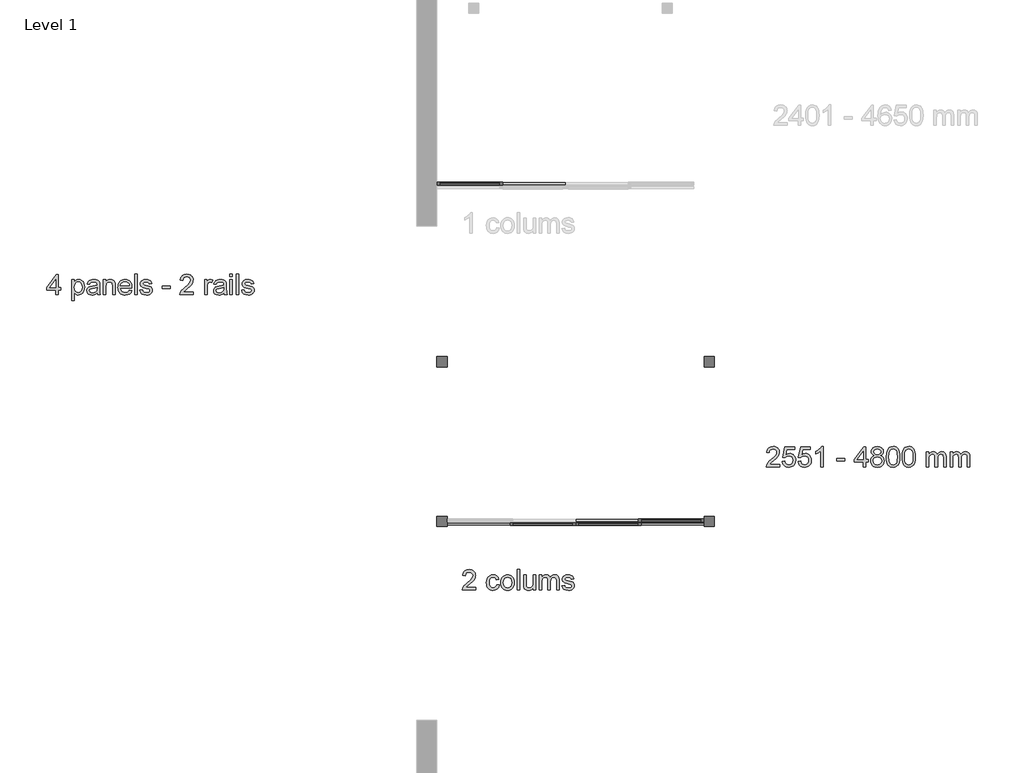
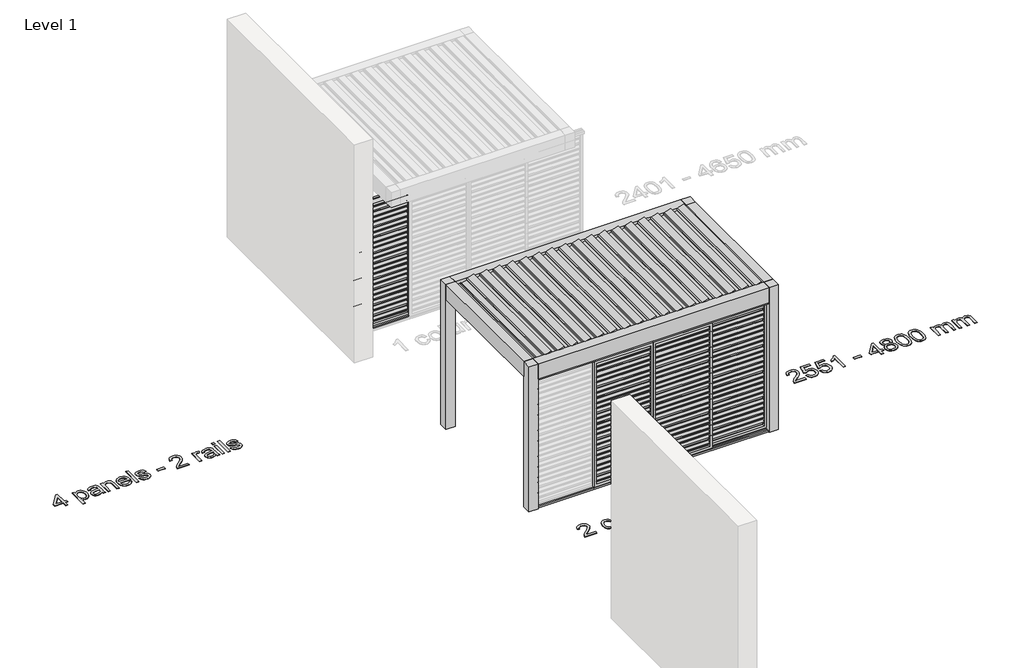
# One storey, part 33 of 69: 8 proxies.
"""IFC4 building model written with IfcOpenShell, lengths in millimetres."""

from ifc_helpers import new_model, si_unit, origin, origin_with_axes, place, context, project, spatial, polyline, outline, extrude, transform, mapped, element, save
from components import generic_models_e57e72d8, generic_models_f57387b0, generic_models_8f5adf67, generic_models_a1f2db59, generic_models_edea96c8

model = new_model("IFC4")

# Units and contexts
model_context = context("Model", 3, world=origin())
ifc_project = project(units=[si_unit("LENGTHUNIT", "METRE", prefix="MILLI")], contexts=[model_context])

# Site, building, storey
site = spatial("IfcSite", under=ifc_project)
building = spatial("IfcBuilding", under=site)
storey = spatial("IfcBuildingStorey", under=building, Name="Level 1", Elevation=0.0)

# Proxies
placement = place(None, origin())
generic_models_shape = generic_models_e57e72d8(model_context)
element("IfcBuildingElementProxy", 1, Name="Renson_Camargue_Loggia_Paro_Aluminium : Renson_Camargue_Loggia_Paro_Aluminium", ObjectType="Renson_Camargue_Loggia_Paro_Aluminium : Renson_Camargue_Loggia_Paro_Aluminium", at=placement, inside=storey, context=model_context, shape_type="MappedRepresentation", body=[
    mapped(generic_models_shape, transform((229731.2027724, -22126.9394184, 0.0), x_axis=(1.0, 0.0, 0.0), y_axis=(0.0, 1.0, 0.0), z_axis=(0.0, 0.0, 1.0))),
])
generic_models_2_shape = generic_models_f57387b0(model_context)
element("IfcBuildingElementProxy", 2, Name="Renson_Camargue_Loggia_Paro_Aluminium : Renson_Camargue_Loggia_Paro_Aluminium", ObjectType="Renson_Camargue_Loggia_Paro_Aluminium : Renson_Camargue_Loggia_Paro_Aluminium", at=placement, inside=storey, context=model_context, shape_type="MappedRepresentation", body=[
    mapped(generic_models_2_shape, transform((230806.2027724, -27140.1963995, 0.0), x_axis=(1.0, 0.0, 0.0), y_axis=(0.0, 1.0, 0.0), z_axis=(0.0, 0.0, 1.0))),
])
generic_models_3_shape = generic_models_8f5adf67(model_context)
element("IfcBuildingElementProxy", 3, Name="Renson_Camargue_Loggia_Paro_Aluminium : Renson_Camargue_Loggia_Paro_Aluminium", ObjectType="Renson_Camargue_Loggia_Paro_Aluminium : Renson_Camargue_Loggia_Paro_Aluminium", at=placement, inside=storey, context=model_context, shape_type="MappedRepresentation", body=[
    mapped(generic_models_3_shape, transform((232696.2027724, -27084.1058954, 0.0), x_axis=(-1.0, 0.0, 0.0), y_axis=(0.0, -1.0, 0.0), z_axis=(0.0, 0.0, 1.0))),
])
generic_models_4_shape = generic_models_a1f2db59(model_context)
element("IfcBuildingElementProxy", 4, Name="Renson_Camargue_Loggia_Paro_Aluminium : Renson_Camargue_Loggia_Paro_Aluminium", ObjectType="Renson_Camargue_Loggia_Paro_Aluminium : Renson_Camargue_Loggia_Paro_Aluminium", at=placement, inside=storey, context=model_context, shape_type="MappedRepresentation", body=[
    mapped(generic_models_4_shape, transform((231771.2027724, -27140.1963995, 0.0), x_axis=(-1.0, 0.0, 0.0), y_axis=(0.0, -1.0, 0.0), z_axis=(0.0, 0.0, 1.0))),
])
generic_models_5_shape = generic_models_edea96c8(model_context)
element("IfcBuildingElementProxy", 5, Name="Renson_Camargue_Freestanding_Patio covers : Renson_Camargue_Freestanding_Patio covers", ObjectType="Renson_Camargue_Freestanding_Patio covers : Renson_Camargue_Freestanding_Patio covers", at=placement, inside=storey, context=model_context, shape_type="MappedRepresentation", body=[
    mapped(generic_models_5_shape, transform((231288.7027724, -25924.1058954, 0.0), x_axis=(1.0, 0.0, 0.0), y_axis=(0.0, 1.0, 0.0), z_axis=(0.0, 0.0, 1.0))),
])
element("IfcBuildingElementProxy", 6, Name="300mm Arial", ObjectType="300mm Arial", at=placement, inside=storey, context=model_context, shape_type="SweptSolid", body=[
    extrude(outline(polyline([(229821.478426, -28073.1029324), (229821.478426, -28110.7740487), (229623.7050654, -28110.7740487), (229627.7517673, -28084.8015798), (229637.0407877, -28064.5036907), (229650.6340274, -28044.8128069), (229670.2973201, -28024.2022182), (229697.7964992, -28001.1452141), (229738.4474597, -27965.0375963), (229762.838036, -27938.3845457), (229775.0333241, -27916.7530844), (229779.0984202, -27895.7102343), (229775.2632504, -27876.847085), (229763.757741, -27861.1661149), (229746.071814, -27850.5987046), (229723.6953917, -27847.0762345), (229700.1969292, -27850.5159312), (229681.9407852, -27860.8350212), (229670.1593643, -27877.224164), (229666.0850712, -27898.8740195), (229628.4139549, -27894.1651299), (229637.5466255, -27857.7264183), (229646.0929841, -27843.190481), (229657.2926916, -27831.1101559), (229670.8882305, -27821.6142019), (229686.6220836, -27814.8313777), (229724.5047321, -27809.4051182), (229744.6945558, -27810.9134344), (229762.663292, -27815.4383829), (229778.4109407, -27822.9799638), (229791.9375018, -27833.5381771), (229802.801517, -27846.3312735), (229810.5615278, -27860.5775038), (229815.2175343, -27876.2768679), (229816.7695365, -27893.4293659), (229815.0956734, -27911.4463866), (229810.0740842, -27929.1507077), (229801.1621428, -27947.1585313), (229787.8172234, -27966.08606), (229766.5444471, -27988.6832115), (229733.8489348, -28017.6999039), (229690.5124357, -28053.9362804), (229673.5162875, -28073.1029324), (229821.478426, -28073.1029324)])), origin_with_axes(), (0.0, 0.0, 1.0), 5.0),
    extrude(outline(polyline([(230127.556246, -28030.7229265), (230165.2273623, -28035.4318161), (230154.7243313, -28068.9366688), (230134.9874623, -28094.2561471), (230107.8745593, -28110.1762404), (230075.2434263, -28115.4829382), (230054.1155034, -28113.6320319), (230035.17188, -28108.0793131), (230018.4125558, -28098.8247816), (230003.837531, -28085.8684376), (229992.0400153, -28069.4540028), (229983.6132183, -28049.8251991), (229978.5571402, -28026.9820265), (229976.8717808, -28000.9244849), (229979.7504574, -27967.4012381), (229988.3864872, -27938.3477575), (230002.917826, -27914.8860833), (230023.4824296, -27898.1382555), (230048.084538, -27888.095077), (230074.7283915, -27884.7473508), (230106.5593811, -27889.3458758), (230132.0076181, -27903.1414506), (230150.2637621, -27925.3983113), (230160.5184728, -27955.3806939), (230122.8473565, -27960.0895835), (230116.0139484, -27943.6544553), (230105.3729617, -27931.8730344), (230091.5130075, -27924.782109), (230075.0226971, -27922.4184671), (230050.6781061, -27927.0721744), (230031.3551043, -27941.0332961), (230018.7459489, -27965.0559904), (230014.5428971, -27999.8944153), (230018.6539784, -28035.2018898), (230030.9872223, -28059.3073576), (230049.9607362, -28073.1857058), (230073.9926275, -28077.8118219), (230093.4995703, -28074.9239482), (230109.49324, -28066.2603273), (230121.1275081, -28051.6002298), (230127.556246, -28030.7229265)])), origin_with_axes(), (0.0, 0.0, 1.0), 5.0),
    extrude(outline(polyline([(230188.77181, -28000.1151445), (230190.8089565, -27971.4525386), (230196.9203962, -27946.7538611), (230207.1061289, -27926.0191122), (230221.3661548, -27909.2482917), (230235.7227496, -27898.5291301), (230251.5692666, -27890.8725861), (230268.9057056, -27886.2786596), (230287.7320667, -27884.7473508), (230308.5151002, -27886.6120527), (230327.3069723, -27892.2061583), (230344.1076832, -27901.5296676), (230358.9172328, -27914.5825806), (230371.0044556, -27930.923439), (230379.6381861, -27950.1107843), (230384.8184245, -27972.1446166), (230386.5451706, -27997.0249358), (230383.49175, -28035.0823282), (230374.3314884, -28064.0530353), (230359.3311, -28085.748876), (230338.7572994, -28101.981669), (230314.3207379, -28112.1076209), (230287.7320667, -28115.4829382), (230266.6455306, -28113.6251341), (230247.6789145, -28108.0517219), (230230.8322184, -28098.7627015), (230216.1054422, -28085.758073), (230204.1469781, -28069.2585655), (230195.6052181, -28049.4849083), (230190.480162, -28026.4371013), (230188.77181, -28000.1151445)]), holes=[polyline([(230226.4429263, -28000.0415681), (230230.8023279, -28034.135032), (230243.8805329, -28058.4244408), (230263.5622196, -28072.9649766), (230287.7320667, -28077.8118219), (230311.7915492, -28072.9373855), (230331.4364477, -28058.3140762), (230344.5146526, -28033.7027707), (230348.8740543, -27998.8643457), (230344.4870615, -27965.7641632), (230331.3260831, -27941.8058483), (230311.6535934, -27927.2653124), (230287.7320667, -27922.4184671), (230263.5622196, -27927.2469183), (230243.8805329, -27941.7322719), (230230.8023279, -27965.9664983), (230226.4429263, -28000.0415681)])]), origin_with_axes(), (0.0, 0.0, 1.0), 5.0),
    extrude(outline(polyline([(230428.9251764, -28110.7740487), (230428.9251764, -27809.4051182), (230466.5962927, -27809.4051182), (230466.5962927, -28110.7740487), (230428.9251764, -28110.7740487)])), origin_with_axes(), (0.0, 0.0, 1.0), 5.0),
    extrude(outline(polyline([(230664.3696534, -28110.7740487), (230664.3696534, -28072.7350504), (230650.7396254, -28091.4372513), (230634.8655173, -28104.7959663), (230616.7473291, -28112.8111952), (230596.3850606, -28115.4829382), (230578.0369461, -28113.60674), (230560.9580245, -28107.9781455), (230546.6290208, -28099.5168596), (230536.53066, -28089.1425874), (230525.3102592, -28061.4042849), (230523.1029672, -28026.381919), (230523.1029672, -27889.4562404), (230560.7740835, -27889.4562404), (230560.7740835, -28008.6500068), (230563.0549519, -28047.0568871), (230568.5455907, -28059.8683776), (230577.9541727, -28069.6080534), (230590.6552986, -28075.7608798), (230606.0235689, -28077.8118219), (230622.2747561, -28075.7148945), (230637.4774795, -28069.4241124), (230650.0130585, -28059.5188897), (230658.2628122, -28046.5786405), (230662.8429431, -28028.8559254), (230664.3696534, -28004.6033049), (230664.3696534, -27889.4562404), (230702.0407697, -27889.4562404), (230702.0407697, -28110.7740487), (230664.3696534, -28110.7740487)])), origin_with_axes(), (0.0, 0.0, 1.0), 5.0),
    extrude(outline(polyline([(230753.8385546, -28110.7740487), (230753.8385546, -27889.4562404), (230791.5096709, -27889.4562404), (230791.5096709, -27925.8765579), (230802.8404363, -27909.1471242), (230817.4085633, -27896.0413281), (230834.7174112, -27887.5708452), (230854.2703393, -27884.7473508), (230875.2212189, -27887.6260275), (230892.015032, -27896.2620573), (230904.559808, -27910.0852233), (230912.7635765, -27928.5253083), (230926.494772, -27909.3724519), (230942.1573479, -27895.6918402), (230959.7513043, -27887.4834732), (230979.2766412, -27884.7473508), (231007.5943578, -27889.2998905), (231028.5360404, -27902.9575096), (231041.4762896, -27926.08809), (231045.789706, -27959.0595139), (231045.789706, -28110.7740487), (231008.1185896, -28110.7740487), (231008.1185896, -27975.2463217), (231004.6237107, -27943.7924111), (230999.7124861, -27935.119593), (230991.9685701, -27928.3045791), (230982.008165, -27923.8899951), (230970.4474733, -27922.4184671), (230950.0392197, -27926.1892576), (230933.4017564, -27937.5016289), (230922.3377054, -27957.1281334), (230918.6496884, -27985.8413231), (230918.6496884, -28110.7740487), (230880.9785721, -28110.7740487), (230880.9785721, -27971.0524669), (230878.7988713, -27949.7520994), (230872.2597688, -27934.558573), (230860.7542594, -27925.4534936), (230843.6753378, -27922.4184671), (230829.1623931, -27924.4418181), (230815.7898826, -27930.511871), (230804.7534227, -27940.4814731), (230797.24863, -27954.2034715), (230792.9444107, -27973.2413648), (230791.5096709, -27999.1586513), (230791.5096709, -28110.7740487), (230753.8385546, -28110.7740487)])), origin_with_axes(), (0.0, 0.0, 1.0), 5.0),
    extrude(outline(polyline([(231088.1697118, -28044.8495951), (231125.8408281, -28040.1407056), (231131.7821223, -28056.253937), (231143.2784347, -28068.0997372), (231160.4033416, -28075.3838007), (231183.2304194, -28077.8118219), (231205.7815857, -28075.5861358), (231221.6372996, -28068.9090776), (231231.0182905, -28059.2337812), (231234.1452875, -28048.0133803), (231230.9998964, -28038.4116602), (231221.5637233, -28031.0908085), (231182.788961, -28020.3486543), (231126.0615573, -28001.9177663), (231111.7049624, -27992.6563371), (231101.303099, -27980.3966696), (231094.9847258, -27965.9205131), (231092.8786013, -27950.0096168), (231094.5708585, -27935.4138986), (231099.64763, -27921.9402206), (231107.6490634, -27910.1220115), (231118.1153062, -27900.4927002), (231142.0644241, -27889.3458758), (231174.4748279, -27884.7473508), (231198.9941628, -27886.5959579), (231220.3129245, -27892.1417789), (231237.4562254, -27900.8421881), (231249.4491785, -27912.1545595), (231257.3954296, -27926.9158245), (231262.3986247, -27945.9629148), (231224.7275084, -27950.6718044), (231219.9726336, -27938.8168071), (231210.5640516, -27929.8864716), (231196.4097918, -27924.2854683), (231177.4178838, -27922.4184671), (231155.7864225, -27924.2026948), (231141.3654483, -27929.5553779), (231133.2536503, -27937.2808997), (231130.5497176, -27946.183644), (231135.037878, -27957.1465275), (231149.0909702, -27965.4606606), (231181.5381622, -27973.4804881), (231236.8308261, -27991.2124002), (231251.4357413, -27999.6920802), (231262.5089893, -28011.2987572), (231269.4895502, -28026.0692193), (231271.8164038, -28044.0402548), (231269.08488, -28062.6182955), (231260.8903085, -28080.0926903), (231247.5453892, -28095.0930786), (231229.3628215, -28106.2491001), (231207.4002664, -28113.1744787), (231182.7153846, -28115.4829382), (231144.7315686, -28111.0315661), (231117.0116602, -28097.6774496), (231098.5071959, -28075.5677417), (231088.1697118, -28044.8495951)])), origin_with_axes(), (0.0, 0.0, 1.0), 5.0),
])
element("IfcBuildingElementProxy", 7, Name="300mm Arial", ObjectType="300mm Arial", at=placement, inside=storey, context=model_context, shape_type="SweptSolid", body=[
    extrude(outline(polyline([(223640.1164378, -23761.4878289), (223640.1164378, -23690.8544858), (223503.5586412, -23690.8544858), (223503.5586412, -23653.1833695), (223649.5342168, -23464.827788), (223677.7875541, -23464.827788), (223677.7875541, -23653.1833695), (223715.4586704, -23653.1833695), (223715.4586704, -23690.8544858), (223677.7875541, -23690.8544858), (223677.7875541, -23761.4878289), (223640.1164378, -23761.4878289)]), holes=[polyline([(223640.1164378, -23653.1833695), (223640.1164378, -23536.7855062), (223549.9117726, -23653.1833695), (223640.1164378, -23653.1833695)])]), origin_with_axes(), (0.0, 0.0, 1.0), 5.0),
    extrude(outline(polyline([(223875.5609147, -23846.2478406), (223875.5609147, -23540.1700206), (223913.232031, -23540.1700206), (223913.232031, -23577.1053729), (223925.5192896, -23558.8860171), (223939.2780762, -23545.8721915), (223955.3177312, -23538.0638962), (223974.447595, -23535.461131), (223999.9234232, -23539.1031628), (224022.198678, -23550.029258), (224040.3352603, -23567.5772292), (224053.3950712, -23591.0848887), (224061.2861399, -23618.8415852), (224063.9164962, -23649.1366675), (224060.9458491, -23681.3539333), (224052.0339078, -23710.1682905), (224037.4657808, -23734.1174084), (224017.5265766, -23751.738956), (223994.3040257, -23762.5822778), (223969.8858582, -23766.1967184), (223952.5678133, -23763.7778943), (223937.1075725, -23756.5214219), (223923.8730177, -23745.5677355), (223913.232031, -23732.0572693), (223913.232031, -23846.2478406), (223875.5609147, -23846.2478406)]), holes=[polyline([(223913.232031, -23652.5947583), (223917.3063241, -23686.3663255), (223929.5292034, -23709.9843495), (223947.5646182, -23723.890289), (223969.0765179, -23728.5256021), (223990.9379054, -23723.7247421), (224009.4331727, -23709.322162), (224022.0423281, -23684.8396152), (224026.2453799, -23649.7988551), (224022.1434957, -23616.211229), (224009.8378429, -23592.2621111), (223991.8300193, -23577.9147133), (223970.6216222, -23573.1322473), (223949.3304518, -23578.2182159), (223930.6328494, -23593.4761217), (223917.5822356, -23618.427718), (223913.232031, -23652.5947583)])]), origin_with_axes(), (0.0, 0.0, 1.0), 5.0),
    extrude(outline(polyline([(224247.5631882, -23733.2344916), (224229.5645616, -23748.6671413), (224211.0325061, -23758.7655021), (224191.5439574, -23764.3389143), (224170.6758512, -23766.1967184), (224139.1943495, -23761.7269522), (224115.9717985, -23748.3176534), (224101.6519919, -23727.955385), (224096.878723, -23702.6267096), (224098.6813448, -23687.0101189), (224104.0892101, -23672.828268), (224112.4309343, -23660.6881622), (224123.0351328, -23651.1968067), (224149.4122719, -23638.8359717), (224182.0066167, -23633.170589), (224220.5238616, -23627.2109006), (224247.342459, -23620.2211427), (224247.5631882, -23611.8334332), (224244.9696201, -23595.0212261), (224237.1889159, -23584.0215544), (224219.7880976, -23575.8545741), (224195.5446741, -23573.1322473), (224173.1038724, -23574.9440662), (224157.4320994, -23580.3795226), (224146.7451274, -23590.4318982), (224139.2587288, -23606.0944741), (224101.5876125, -23601.3855846), (224108.126715, -23580.7841928), (224117.8847849, -23564.5973851), (224131.7723302, -23552.2181559), (224150.6998589, -23543.0395001), (224173.8488334, -23537.3557233), (224200.4007164, -23535.461131), (224225.8673475, -23537.1349941), (224246.054872, -23542.1565833), (224261.2759896, -23549.7073613), (224271.8433999, -23558.9687905), (224278.8515519, -23570.4191176), (224283.3948945, -23584.5365892), (224285.2343045, -23617.498816), (224285.2343045, -23664.3669821), (224287.1472909, -23729.8131891), (224294.6520836, -23761.4878289), (224256.9809673, -23761.4878289), (224247.5631882, -23733.2344916)]), holes=[polyline([(224247.5631882, -23657.892259), (224186.7890826, -23669.4437537), (224154.3786788, -23675.5505948), (224139.7001872, -23685.4834087), (224134.5498393, -23699.9779593), (224137.3549395, -23711.179966), (224145.7702401, -23720.3586218), (224159.6118002, -23726.483857), (224178.6956787, -23728.5256021), (224198.9291884, -23726.2723249), (224216.8082534, -23719.5124932), (224231.302804, -23709.5520882), (224241.3827707, -23697.6970909), (224245.8525369, -23685.4834087), (224247.342459, -23668.5608369), (224247.5631882, -23657.892259)])]), origin_with_axes(), (0.0, 0.0, 1.0), 5.0),
    extrude(outline(polyline([(224337.0320894, -23761.4878289), (224337.0320894, -23540.1700206), (224374.7032057, -23540.1700206), (224374.7032057, -23571.0721082), (224387.7906077, -23555.4923057), (224403.508366, -23544.3638753), (224421.8564805, -23537.6868171), (224442.8349512, -23535.461131), (224461.403795, -23537.2545558), (224478.4091402, -23542.6348299), (224492.5909911, -23550.9305689), (224502.6893519, -23561.4703881), (224513.9833291, -23589.1719023), (224515.9698919, -23625.5922199), (224515.9698919, -23761.4878289), (224478.2987756, -23761.4878289), (224478.2987756, -23630.6689914), (224473.957768, -23597.3388826), (224467.9520945, -23587.4152658), (224458.6170888, -23579.7173351), (224446.6517269, -23574.7785193), (224432.7549846, -23573.1322473), (224410.6912619, -23576.8294614), (224391.8832949, -23587.9211035), (224384.3670059, -23596.9755992), (224378.998228, -23609.3502298), (224374.7032057, -23644.059896), (224374.7032057, -23761.4878289), (224337.0320894, -23761.4878289)])), origin_with_axes(), (0.0, 0.0, 1.0), 5.0),
    extrude(outline(polyline([(224722.7195732, -23695.5633753), (224759.6549255, -23700.2722649), (224746.3467943, -23728.1025378), (224725.1108061, -23748.9062646), (224696.4252076, -23761.874105), (224660.7682452, -23766.1967184), (224637.3939429, -23764.3320165), (224616.5672235, -23758.737911), (224598.2880868, -23749.4144016), (224582.556533, -23736.3614886), (224569.9059909, -23719.9424553), (224560.8698894, -23700.5205852), (224555.4482285, -23678.0958784), (224553.6410082, -23652.6683347), (224555.4666226, -23626.3785676), (224560.9434658, -23603.2066004), (224570.0715378, -23583.1524332), (224582.8508386, -23566.2160658), (224598.5410057, -23552.7607819), (224616.4016766, -23543.1498647), (224636.4328512, -23537.3833145), (224658.6345296, -23535.461131), (224680.1211374, -23537.3787159), (224699.5522045, -23543.1314706), (224716.927731, -23552.7193951), (224732.2477169, -23566.1424894), (224744.7534054, -23583.0420686), (224753.6860401, -23603.0594476), (224759.0456209, -23626.1946266), (224760.8321479, -23652.4476055), (224760.6114187, -23662.6011486), (224591.3121245, -23662.6011486), (224597.8328329, -23690.7993035), (224612.980374, -23711.5294539), (224634.8417616, -23724.2765651), (224661.5040092, -23728.5256021), (224681.5535779, -23726.5574334), (224698.4393615, -23720.6529274), (224712.1613599, -23710.444202), (224722.7195732, -23695.5633753)]), holes=[polyline([(224591.3121245, -23624.9300323), (224723.1610316, -23624.9300323), (224718.0658659, -23605.0276163), (224708.0778698, -23590.7905831), (224686.1153147, -23577.5468313), (224658.4873768, -23573.1322473), (224633.0943221, -23576.6547174), (224612.0974572, -23587.2221278), (224597.5017391, -23603.6940441), (224591.3121245, -23624.9300323)])]), origin_with_axes(), (0.0, 0.0, 1.0), 5.0),
    extrude(outline(polyline([(224798.5032642, -23761.4878289), (224798.5032642, -23460.1188984), (224836.1743805, -23460.1188984), (224836.1743805, -23761.4878289), (224798.5032642, -23761.4878289)])), origin_with_axes(), (0.0, 0.0, 1.0), 5.0),
    extrude(outline(polyline([(224878.5543863, -23695.5633753), (224916.2255026, -23690.8544858), (224922.1667969, -23706.9677172), (224933.6631092, -23718.8135174), (224950.7880161, -23726.0975809), (224973.6150939, -23728.5256021), (224996.1662602, -23726.299916), (225012.0219742, -23719.6228578), (225021.4029651, -23709.9475613), (225024.529962, -23698.7271605), (225021.384571, -23689.1254404), (225011.9483978, -23681.8045887), (224973.1736355, -23671.0624345), (224916.4462318, -23652.6315465), (224902.089637, -23643.3701173), (224891.6877736, -23631.1104498), (224885.3694003, -23616.6342933), (224883.2632759, -23600.723397), (224884.955533, -23586.1276788), (224890.0323046, -23572.6540007), (224898.033738, -23560.8357917), (224908.4999807, -23551.2064804), (224932.4490986, -23540.059656), (224964.8595024, -23535.461131), (224989.3788374, -23537.3097381), (225010.697599, -23542.8555591), (225027.8409, -23551.5559683), (225039.833853, -23562.8683397), (225047.7801041, -23577.6296047), (225052.7832992, -23596.676695), (225015.1121829, -23601.3855846), (225010.3573082, -23589.5305873), (225000.9487261, -23580.6002518), (224986.7944664, -23574.9992485), (224967.8025584, -23573.1322473), (224946.171097, -23574.916475), (224931.7501228, -23580.269158), (224923.6383248, -23587.9946799), (224920.9343922, -23596.8974242), (224925.4225525, -23607.8603077), (224939.4756447, -23616.1744408), (224971.9228367, -23624.1942683), (225027.2155006, -23641.9261804), (225041.8204158, -23650.4058604), (225052.8936638, -23662.0125374), (225059.8742247, -23676.7829995), (225062.2010783, -23694.7540349), (225059.4695545, -23713.3320757), (225051.2749831, -23730.8064705), (225037.9300637, -23745.8068588), (225019.7474961, -23756.9628803), (224997.784941, -23763.8882589), (224973.1000591, -23766.1967184), (224935.1162431, -23761.7453463), (224907.3963348, -23748.3912298), (224888.8918704, -23726.2815219), (224878.5543863, -23695.5633753)])), origin_with_axes(), (0.0, 0.0, 1.0), 5.0),
    extrude(outline(polyline([(225203.4677645, -23672.0189276), (225203.4677645, -23634.3478113), (225321.1900029, -23634.3478113), (225321.1900029, -23672.0189276), (225203.4677645, -23672.0189276)])), origin_with_axes(), (0.0, 0.0, 1.0), 5.0),
    extrude(outline(polyline([(225664.9389392, -23723.8167126), (225664.9389392, -23761.4878289), (225467.1655786, -23761.4878289), (225471.2122806, -23735.51536), (225480.5013009, -23715.2174709), (225494.0945407, -23695.5265871), (225513.7578333, -23674.9159984), (225541.2570124, -23651.8589943), (225581.9079729, -23615.7513765), (225606.2985492, -23589.0983259), (225618.4938373, -23567.4668646), (225622.5589334, -23546.4240145), (225618.7237636, -23527.5608652), (225607.2182542, -23511.8798951), (225589.5323273, -23501.3124848), (225567.1559049, -23497.7900147), (225543.6574425, -23501.2297114), (225525.4012985, -23511.5488013), (225513.6198776, -23527.9379442), (225509.5455845, -23549.5877996), (225471.8744682, -23544.8789101), (225481.0071387, -23508.4401985), (225489.5534973, -23493.9042612), (225500.7532048, -23481.8239361), (225514.3487438, -23472.3279821), (225530.0825968, -23465.5451579), (225567.9652453, -23460.1188984), (225588.155069, -23461.6272146), (225606.1238052, -23466.1521631), (225621.8714539, -23473.693744), (225635.398015, -23484.2519573), (225646.2620302, -23497.0450537), (225654.022041, -23511.291284), (225658.6780475, -23526.9906481), (225660.2300497, -23544.1431461), (225658.5561866, -23562.1601668), (225653.5345974, -23579.8644879), (225644.622656, -23597.8723115), (225631.2777367, -23616.7998402), (225610.0049603, -23639.3969917), (225577.309448, -23668.4136841), (225533.9729489, -23704.6500606), (225516.9768008, -23723.8167126), (225664.9389392, -23723.8167126)])), origin_with_axes(), (0.0, 0.0, 1.0), 5.0),
    extrude(outline(polyline([(225829.7500731, -23761.4878289), (225829.7500731, -23540.1700206), (225862.7122998, -23540.1700206), (225862.7122998, -23572.9115181), (225874.8891939, -23553.9288072), (225886.1095947, -23542.7451945), (225897.3667838, -23537.2821469), (225909.6540424, -23535.461131), (225928.4160242, -23538.3673988), (225947.4723115, -23547.0862021), (225934.8907473, -23580.8577692), (225921.6469955, -23575.0636278), (225908.4032436, -23573.1322473), (225897.1552516, -23574.9900514), (225887.1028761, -23580.5634636), (225878.9818811, -23589.4294197), (225873.5280305, -23601.1648554), (225868.9478996, -23622.2077055), (225867.4211894, -23645.163542), (225867.4211894, -23761.4878289), (225829.7500731, -23761.4878289)])), origin_with_axes(), (0.0, 0.0, 1.0), 5.0),
    extrude(outline(polyline([(226112.2834454, -23733.2344916), (226094.2848187, -23748.6671413), (226075.7527632, -23758.7655021), (226056.2642145, -23764.3389143), (226035.3961084, -23766.1967184), (226003.9146066, -23761.7269522), (225980.6920557, -23748.3176534), (225966.372249, -23727.955385), (225961.5989801, -23702.6267096), (225963.4016019, -23687.0101189), (225968.8094672, -23672.828268), (225977.1511915, -23660.6881622), (225987.75539, -23651.1968067), (226014.132529, -23638.8359717), (226046.7268738, -23633.170589), (226085.2441187, -23627.2109006), (226112.0627162, -23620.2211427), (226112.2834454, -23611.8334332), (226109.6898773, -23595.0212261), (226101.9091731, -23584.0215544), (226084.5083547, -23575.8545741), (226060.2649312, -23573.1322473), (226037.8241295, -23574.9440662), (226022.1523565, -23580.3795226), (226011.4653846, -23590.4318982), (226003.978986, -23606.0944741), (225966.3078697, -23601.3855846), (225972.8469721, -23580.7841928), (225982.6050421, -23564.5973851), (225996.4925874, -23552.2181559), (226015.420116, -23543.0395001), (226038.5690906, -23537.3557233), (226065.1209736, -23535.461131), (226090.5876047, -23537.1349941), (226110.7751292, -23542.1565833), (226125.9962467, -23549.7073613), (226136.563657, -23558.9687905), (226143.571809, -23570.4191176), (226148.1151517, -23584.5365892), (226149.9545617, -23617.498816), (226149.9545617, -23664.3669821), (226151.867548, -23729.8131891), (226159.3723407, -23761.4878289), (226121.7012244, -23761.4878289), (226112.2834454, -23733.2344916)]), holes=[polyline([(226112.2834454, -23657.892259), (226051.5093398, -23669.4437537), (226019.098936, -23675.5505948), (226004.4204444, -23685.4834087), (225999.2700964, -23699.9779593), (226002.0751967, -23711.179966), (226010.4904973, -23720.3586218), (226024.3320574, -23726.483857), (226043.4159359, -23728.5256021), (226063.6494456, -23726.2723249), (226081.5285106, -23719.5124932), (226096.0230612, -23709.5520882), (226106.1030278, -23697.6970909), (226110.5727941, -23685.4834087), (226112.0627162, -23668.5608369), (226112.2834454, -23657.892259)])]), origin_with_axes(), (0.0, 0.0, 1.0), 5.0),
    extrude(outline(polyline([(226201.7523466, -23761.4878289), (226201.7523466, -23540.1700206), (226239.4234629, -23540.1700206), (226239.4234629, -23761.4878289), (226201.7523466, -23761.4878289)])), origin_with_axes(), (0.0, 0.0, 1.0), 5.0),
    extrude(outline(polyline([(226201.7523466, -23497.7900147), (226201.7523466, -23460.1188984), (226239.4234629, -23460.1188984), (226239.4234629, -23497.7900147), (226201.7523466, -23497.7900147)])), origin_with_axes(), (0.0, 0.0, 1.0), 5.0),
    extrude(outline(polyline([(226295.9301374, -23761.4878289), (226295.9301374, -23460.1188984), (226333.6012537, -23460.1188984), (226333.6012537, -23761.4878289), (226295.9301374, -23761.4878289)])), origin_with_axes(), (0.0, 0.0, 1.0), 5.0),
    extrude(outline(polyline([(226375.9812595, -23695.5633753), (226413.6523758, -23690.8544858), (226419.59367, -23706.9677172), (226431.0899824, -23718.8135174), (226448.2148893, -23726.0975809), (226471.0419671, -23728.5256021), (226493.5931334, -23726.299916), (226509.4488474, -23719.6228578), (226518.8298382, -23709.9475613), (226521.9568352, -23698.7271605), (226518.8114441, -23689.1254404), (226509.375271, -23681.8045887), (226470.6005087, -23671.0624345), (226413.873105, -23652.6315465), (226399.5165101, -23643.3701173), (226389.1146467, -23631.1104498), (226382.7962735, -23616.6342933), (226380.690149, -23600.723397), (226382.3824062, -23586.1276788), (226387.4591778, -23572.6540007), (226395.4606111, -23560.8357917), (226405.9268539, -23551.2064804), (226429.8759718, -23540.059656), (226462.2863756, -23535.461131), (226486.8057105, -23537.3097381), (226508.1244722, -23542.8555591), (226525.2677731, -23551.5559683), (226537.2607262, -23562.8683397), (226545.2069773, -23577.6296047), (226550.2101724, -23596.676695), (226512.5390561, -23601.3855846), (226507.7841813, -23589.5305873), (226498.3755993, -23580.6002518), (226484.2213395, -23574.9992485), (226465.2294315, -23573.1322473), (226443.5979702, -23574.916475), (226429.176996, -23580.269158), (226421.065198, -23587.9946799), (226418.3612653, -23596.8974242), (226422.8494257, -23607.8603077), (226436.9025179, -23616.1744408), (226469.3497099, -23624.1942683), (226524.6423738, -23641.9261804), (226539.247289, -23650.4058604), (226550.320537, -23662.0125374), (226557.3010979, -23676.7829995), (226559.6279515, -23694.7540349), (226556.8964277, -23713.3320757), (226548.7018562, -23730.8064705), (226535.3569369, -23745.8068588), (226517.1743692, -23756.9628803), (226495.2118141, -23763.8882589), (226470.5269323, -23766.1967184), (226432.5431163, -23761.7453463), (226404.8232079, -23748.3912298), (226386.3187436, -23726.2815219), (226375.9812595, -23695.5633753)])), origin_with_axes(), (0.0, 0.0, 1.0), 5.0),
])
element("IfcBuildingElementProxy", 8, Name="300mm Arial", ObjectType="300mm Arial", at=placement, inside=storey, context=model_context, shape_type="SweptSolid", body=[
    extrude(outline(polyline([(234292.8681511, -26259.7713516), (234292.8681511, -26297.4424679), (234095.0947904, -26297.4424679), (234099.1414924, -26271.469999), (234108.4305128, -26251.1721099), (234122.0237525, -26231.4812262), (234141.6870451, -26210.8706374), (234169.1862243, -26187.8136333), (234209.8371847, -26151.7060155), (234234.227761, -26125.052965), (234246.4230492, -26103.4215036), (234250.4881452, -26082.3786535), (234246.6529754, -26063.5155042), (234235.147466, -26047.8345342), (234217.4615391, -26037.2671239), (234195.0851167, -26033.7446537), (234171.5866543, -26037.1843504), (234153.3305103, -26047.5034404), (234141.5490894, -26063.8925833), (234137.4747963, -26085.5424387), (234099.80368, -26080.8335491), (234108.9363505, -26044.3948375), (234117.4827091, -26029.8589002), (234128.6824166, -26017.7785752), (234142.2779556, -26008.2826212), (234158.0118087, -26001.4997969), (234195.8944571, -25996.0735374), (234216.0842809, -25997.5818536), (234234.0530171, -26002.1068022), (234249.8006657, -26009.6483831), (234263.3272268, -26020.2065963), (234274.191242, -26032.9996927), (234281.9512528, -26047.245923), (234286.6072593, -26062.9452871), (234288.1592615, -26080.0977851), (234286.4853984, -26098.1148059), (234281.4638092, -26115.8191269), (234272.5518679, -26133.8269505), (234259.2069485, -26152.7544792), (234237.9341721, -26175.3516307), (234205.2386598, -26204.3683231), (234161.9021608, -26240.6046996), (234144.9060126, -26259.7713516), (234292.8681511, -26259.7713516)])), origin_with_axes(), (0.0, 0.0, 1.0), 5.0),
    extrude(outline(polyline([(234330.5392674, -26217.3913457), (234368.2103837, -26212.6824562), (234375.1265652, -26235.2980019), (234387.1930946, -26251.4940067), (234404.3547897, -26261.2336825), (234426.5564681, -26264.4802411), (234453.5590065, -26259.9644896), (234473.7925163, -26246.4172352), (234486.4292628, -26225.4019762), (234490.6415117, -26198.4822112), (234486.6959773, -26173.1351417), (234474.8593741, -26153.7477606), (234455.0397316, -26141.4421078), (234427.1450793, -26137.3402236), (234408.8705412, -26138.9772985), (234394.0724879, -26143.8885231), (234372.9192732, -26160.8846713), (234335.2481569, -26156.1757817), (234368.2103837, -26000.782427), (234514.1859593, -26000.782427), (234514.1859593, -26038.4535433), (234398.6710129, -26038.4535433), (234382.5577815, -26121.4477214), (234409.4683494, -26105.1137608), (234437.6665044, -26099.6691073), (234456.0123196, -26101.3567659), (234472.8636142, -26106.4197419), (234488.2203883, -26114.8580352), (234502.0826417, -26126.6716457), (234513.5582607, -26141.1386052), (234521.7551314, -26157.5369451), (234526.6732538, -26175.8666655), (234528.312628, -26196.1277664), (234522.4081219, -26233.7988827), (234515.0274894, -26250.5926958), (234504.6946039, -26266.0253455), (234489.041225, -26281.8304757), (234470.7758839, -26293.1198544), (234449.8985807, -26299.8934817), (234426.4093153, -26302.1513574), (234389.4095836, -26296.348019), (234373.7309129, -26289.0938459), (234359.9330388, -26278.9380035), (234348.4528213, -26266.3863297), (234339.7271202, -26251.9446621), (234330.5392674, -26217.3913457)])), origin_with_axes(), (0.0, 0.0, 1.0), 5.0),
    extrude(outline(polyline([(234561.2748547, -26217.3913457), (234598.945971, -26212.6824562), (234605.8621525, -26235.2980019), (234617.928682, -26251.4940067), (234635.0903771, -26261.2336825), (234657.2920555, -26264.4802411), (234684.2945939, -26259.9644896), (234704.5281037, -26246.4172352), (234717.1648502, -26225.4019762), (234721.377099, -26198.4822112), (234717.4315646, -26173.1351417), (234705.5949614, -26153.7477606), (234685.7753189, -26141.4421078), (234657.8806667, -26137.3402236), (234639.6061286, -26138.9772985), (234624.8080753, -26143.8885231), (234603.6548606, -26160.8846713), (234565.9837443, -26156.1757817), (234598.945971, -26000.782427), (234744.9215467, -26000.782427), (234744.9215467, -26038.4535433), (234629.4066002, -26038.4535433), (234613.2933688, -26121.4477214), (234640.2039368, -26105.1137608), (234668.4020917, -26099.6691073), (234686.747907, -26101.3567659), (234703.5992016, -26106.4197419), (234718.9559757, -26114.8580352), (234732.8182291, -26126.6716457), (234744.2938481, -26141.1386052), (234752.4907188, -26157.5369451), (234757.4088412, -26175.8666655), (234759.0482153, -26196.1277664), (234753.1437093, -26233.7988827), (234745.7630768, -26250.5926958), (234735.4301912, -26266.0253455), (234719.7768124, -26281.8304757), (234701.5114713, -26293.1198544), (234680.6341681, -26299.8934817), (234657.1449027, -26302.1513574), (234620.145171, -26296.348019), (234604.4665002, -26289.0938459), (234590.6686261, -26278.9380035), (234579.1884086, -26266.3863297), (234570.4627076, -26251.9446621), (234561.2748547, -26217.3913457)])), origin_with_axes(), (0.0, 0.0, 1.0), 5.0),
    extrude(outline(polyline([(234933.2771283, -26297.4424679), (234895.6060119, -26297.4424679), (234895.6060119, -26062.5866022), (234859.9214584, -26088.007248), (234820.2637793, -26107.0267472), (234820.2637793, -26071.4157701), (234849.8506888, -26055.3209328), (234875.4828668, -26036.1726749), (234895.6887854, -26015.8104065), (234908.9969166, -25996.0735374), (234933.2771283, -25996.0735374), (234933.2771283, -26297.4424679)])), origin_with_axes(), (0.0, 0.0, 1.0), 5.0),
    extrude(outline(polyline([(235131.0504889, -26207.9735667), (235131.0504889, -26170.3024504), (235248.7727273, -26170.3024504), (235248.7727273, -26207.9735667), (235131.0504889, -26207.9735667)])), origin_with_axes(), (0.0, 0.0, 1.0), 5.0),
    extrude(outline(polyline([(235521.8883205, -26297.4424679), (235521.8883205, -26226.8091248), (235385.3305239, -26226.8091248), (235385.3305239, -26189.1380085), (235531.3060996, -26000.782427), (235559.5594368, -26000.782427), (235559.5594368, -26189.1380085), (235597.2305531, -26189.1380085), (235597.2305531, -26226.8091248), (235559.5594368, -26226.8091248), (235559.5594368, -26297.4424679), (235521.8883205, -26297.4424679)]), holes=[polyline([(235521.8883205, -26189.1380085), (235521.8883205, -26072.7401452), (235431.6836553, -26189.1380085), (235521.8883205, -26189.1380085)])]), origin_with_axes(), (0.0, 0.0, 1.0), 5.0),
    extrude(outline(polyline([(235685.0807736, -26131.4541117), (235664.9116432, -26121.5212978), (235650.7573834, -26108.0568168), (235642.3972651, -26091.3365801), (235639.610559, -26071.6364993), (235641.1280722, -26056.2728274), (235645.6806119, -26042.1875455), (235653.2681781, -26029.3806536), (235663.8907707, -26017.8521516), (235677.0379535, -26008.3240079), (235692.1992902, -26001.518191), (235728.5644254, -25996.0735374), (235765.1502898, -26001.6469497), (235780.4771735, -26008.613715), (235793.8266914, -26018.3671864), (235804.642422, -26030.1210161), (235812.3679439, -26043.0888564), (235817.0032571, -26057.2707073), (235818.5483614, -26072.6665688), (235815.7984435, -26091.7320532), (235807.5486898, -26108.1671814), (235793.7071297, -26121.5488889), (235774.1817928, -26131.4541117), (235797.3675556, -26143.4010795), (235814.2441421, -26160.9950359), (235824.5356409, -26183.3898523), (235827.9661405, -26209.7394002), (235826.2646863, -26228.5289731), (235821.1603236, -26245.7550476), (235812.6530525, -26261.4176235), (235800.7428729, -26275.516701), (235786.0551842, -26287.1693632), (235769.2153859, -26295.4926933), (235750.2234779, -26300.4866914), (235729.0794602, -26302.1513574), (235707.9354425, -26300.4797936), (235688.9435345, -26295.4651022), (235672.1037362, -26287.1072831), (235657.4160476, -26275.4063364), (235645.505868, -26261.2083906), (235636.9985968, -26245.3595744), (235631.8942341, -26227.8598878), (235630.1927799, -26208.7093307), (235633.7612353, -26181.3389102), (235644.4666013, -26158.8245321), (235661.7570551, -26141.9387485), (235685.0807736, -26131.4541117)]), holes=[polyline([(235667.8638962, -26207.3849555), (235674.1546783, -26235.7486573), (235682.8642846, -26247.9163543), (235696.411539, -26256.9754484), (235712.635135, -26262.6040429), (235729.3737658, -26264.4802411), (235755.0151409, -26260.5347067), (235774.2553692, -26248.6981035), (235786.2851105, -26230.7730533), (235790.2950242, -26208.5621779), (235786.1563518, -26185.9742234), (235773.7403344, -26167.6537), (235754.0586477, -26155.5135942), (235728.122967, -26151.4668922), (235702.8402769, -26155.4584119), (235683.7931866, -26167.4329708), (235671.8462188, -26185.4040063), (235667.8638962, -26207.3849555)]), polyline([(235677.2816753, -26072.7401452), (235680.6202044, -26089.1844704), (235690.6357917, -26102.3178576), (235707.0341317, -26110.9262963), (235729.5209186, -26113.7957759), (235751.4834737, -26110.9446904), (235767.6334933, -26102.391434), (235777.5663072, -26089.6995052), (235780.8772451, -26074.4324024), (235777.4559426, -26058.5858855), (235767.1920349, -26045.4800894), (235750.8212861, -26036.6785127), (235729.0794602, -26033.7446537), (235707.1996786, -26036.6141333), (235690.8565209, -26045.222572), (235680.6753867, -26057.8409244), (235677.2816753, -26072.7401452)])]), origin_with_axes(), (0.0, 0.0, 1.0), 5.0),
    extrude(outline(polyline([(235860.9283673, -26149.1860238), (235863.6966793, -26100.9474972), (235872.0016153, -26062.4762376), (235885.760402, -26033.1836337), (235904.8902657, -26012.4810744), (235929.5291623, -26000.1754217), (235959.8150476, -25996.0735374), (235983.0284015, -25998.5015586), (236003.8137342, -26005.7856221), (236021.1961585, -26017.6406194), (236034.200787, -26033.7814419), (236044.0232363, -26054.070134), (236051.8591228, -26078.3687398), (236056.9910766, -26109.2248421), (236058.7017279, -26149.1860238), (236055.961007, -26197.148639), (236047.7388444, -26235.5279281), (236034.0628313, -26264.8481231), (236014.9605587, -26285.6334558), (235990.2664797, -26298.021882), (235959.8150476, -26302.1513574), (235939.0665031, -26300.3579327), (235920.6724033, -26294.9776585), (235904.6327483, -26286.0105349), (235890.9475381, -26273.4565618), (235877.8141509, -26250.7628412), (235868.43316, -26222.4865114), (235862.8045655, -26188.6275722), (235860.9283673, -26149.1860238)]), holes=[polyline([(235898.5994836, -26149.1124474), (235903.0140675, -26208.3690398), (235908.5322975, -26228.6370385), (235916.2578194, -26242.6648388), (235935.9762943, -26259.0263905), (235959.8150476, -26264.4802411), (235983.6538009, -26259.0079964), (236003.3722758, -26242.5912624), (236011.0977977, -26228.5404695), (236016.6160277, -26208.2770693), (236021.0306116, -26149.1124474), (236016.7631804, -26091.1894273), (236011.4288915, -26070.9881072), (236003.960887, -26056.6269138), (235984.2792003, -26039.4652188), (235959.3735892, -26033.7446537), (235935.7923533, -26038.7846371), (235916.8464306, -26053.9045871), (235908.8633913, -26069.5395719), (235903.1612203, -26090.6192102), (235898.5994836, -26149.1124474)])]), origin_with_axes(), (0.0, 0.0, 1.0), 5.0),
    extrude(outline(polyline([(236091.6639547, -26149.1860238), (236094.4322667, -26100.9474972), (236102.7372027, -26062.4762376), (236116.4959893, -26033.1836337), (236135.6258531, -26012.4810744), (236160.2647497, -26000.1754217), (236190.550635, -25996.0735374), (236213.7639889, -25998.5015586), (236234.5493216, -26005.7856221), (236251.9317459, -26017.6406194), (236264.9363744, -26033.7814419), (236274.7588237, -26054.070134), (236282.5947102, -26078.3687398), (236287.726664, -26109.2248421), (236289.4373153, -26149.1860238), (236286.6965944, -26197.148639), (236278.4744318, -26235.5279281), (236264.7984186, -26264.8481231), (236245.696146, -26285.6334558), (236221.0020671, -26298.021882), (236190.550635, -26302.1513574), (236169.8020904, -26300.3579327), (236151.4079907, -26294.9776585), (236135.3683357, -26286.0105349), (236121.6831255, -26273.4565618), (236108.5497382, -26250.7628412), (236099.1687474, -26222.4865114), (236093.5401528, -26188.6275722), (236091.6639547, -26149.1860238)]), holes=[polyline([(236129.335071, -26149.1124474), (236133.7496549, -26208.3690398), (236139.2678848, -26228.6370385), (236146.9934067, -26242.6648388), (236166.7118817, -26259.0263905), (236190.550635, -26264.4802411), (236214.3893883, -26259.0079964), (236234.1078632, -26242.5912624), (236241.8333851, -26228.5404695), (236247.351615, -26208.2770693), (236251.766199, -26149.1124474), (236247.4987678, -26091.1894273), (236242.1644789, -26070.9881072), (236234.6964744, -26056.6269138), (236215.0147876, -26039.4652188), (236190.1091766, -26033.7446537), (236166.5279407, -26038.7846371), (236147.5820179, -26053.9045871), (236139.5989786, -26069.5395719), (236133.8968077, -26090.6192102), (236129.335071, -26149.1124474)])]), origin_with_axes(), (0.0, 0.0, 1.0), 5.0),
    extrude(outline(polyline([(236449.5395596, -26297.4424679), (236449.5395596, -26076.1246596), (236487.2106759, -26076.1246596), (236487.2106759, -26112.5449771), (236498.5414413, -26095.8155434), (236513.1095683, -26082.7097473), (236530.4184162, -26074.2392644), (236549.9713443, -26071.4157701), (236570.9222239, -26074.2944467), (236587.716037, -26082.9304765), (236600.260813, -26096.7536425), (236608.4645815, -26115.1937275), (236622.195777, -26096.0408711), (236637.8583529, -26082.3602594), (236655.4523093, -26074.1518924), (236674.9776462, -26071.4157701), (236703.2953628, -26075.9683097), (236724.2370454, -26089.6259288), (236737.1772946, -26112.7565093), (236741.4907109, -26145.7279331), (236741.4907109, -26297.4424679), (236703.8195946, -26297.4424679), (236703.8195946, -26161.9147409), (236700.3247157, -26130.4608303), (236695.4134911, -26121.7880122), (236687.6695751, -26114.9729983), (236677.70917, -26110.5584143), (236666.1484783, -26109.0868864), (236645.7402247, -26112.8576768), (236629.1027614, -26124.1700482), (236618.0387104, -26143.7965526), (236614.3506934, -26172.5097423), (236614.3506934, -26297.4424679), (236576.6795771, -26297.4424679), (236576.6795771, -26157.7208861), (236574.4998763, -26136.4205186), (236567.9607738, -26121.2269922), (236556.4552644, -26112.1219128), (236539.3763428, -26109.0868864), (236524.8633981, -26111.1102373), (236511.4908876, -26117.1802903), (236500.4544277, -26127.1498923), (236492.949635, -26140.8718907), (236488.6454157, -26159.909784), (236487.2106759, -26185.8270706), (236487.2106759, -26297.4424679), (236449.5395596, -26297.4424679)])), origin_with_axes(), (0.0, 0.0, 1.0), 5.0),
    extrude(outline(polyline([(236797.9973854, -26297.4424679), (236797.9973854, -26076.1246596), (236835.6685017, -26076.1246596), (236835.6685017, -26112.5449771), (236846.9992672, -26095.8155434), (236861.5673942, -26082.7097473), (236878.876242, -26074.2392644), (236898.4291701, -26071.4157701), (236919.3800497, -26074.2944467), (236936.1738628, -26082.9304765), (236948.7186388, -26096.7536425), (236956.9224073, -26115.1937275), (236970.6536028, -26096.0408711), (236986.3161787, -26082.3602594), (237003.9101352, -26074.1518924), (237023.4354721, -26071.4157701), (237051.7531886, -26075.9683097), (237072.6948712, -26089.6259288), (237085.6351204, -26112.7565093), (237089.9485368, -26145.7279331), (237089.9485368, -26297.4424679), (237052.2774205, -26297.4424679), (237052.2774205, -26161.9147409), (237048.7825415, -26130.4608303), (237043.8713169, -26121.7880122), (237036.1274009, -26114.9729983), (237026.1669959, -26110.5584143), (237014.6063042, -26109.0868864), (236994.1980505, -26112.8576768), (236977.5605873, -26124.1700482), (236966.4965362, -26143.7965526), (236962.8085192, -26172.5097423), (236962.8085192, -26297.4424679), (236925.1374029, -26297.4424679), (236925.1374029, -26157.7208861), (236922.9577021, -26136.4205186), (236916.4185997, -26121.2269922), (236904.9130903, -26112.1219128), (236887.8341686, -26109.0868864), (236873.3212239, -26111.1102373), (236859.9487134, -26117.1802903), (236848.9122535, -26127.1498923), (236841.4074608, -26140.8718907), (236837.1032415, -26159.909784), (236835.6685017, -26185.8270706), (236835.6685017, -26297.4424679), (236797.9973854, -26297.4424679)])), origin_with_axes(), (0.0, 0.0, 1.0), 5.0),
])

save(model, "model.ifc")
